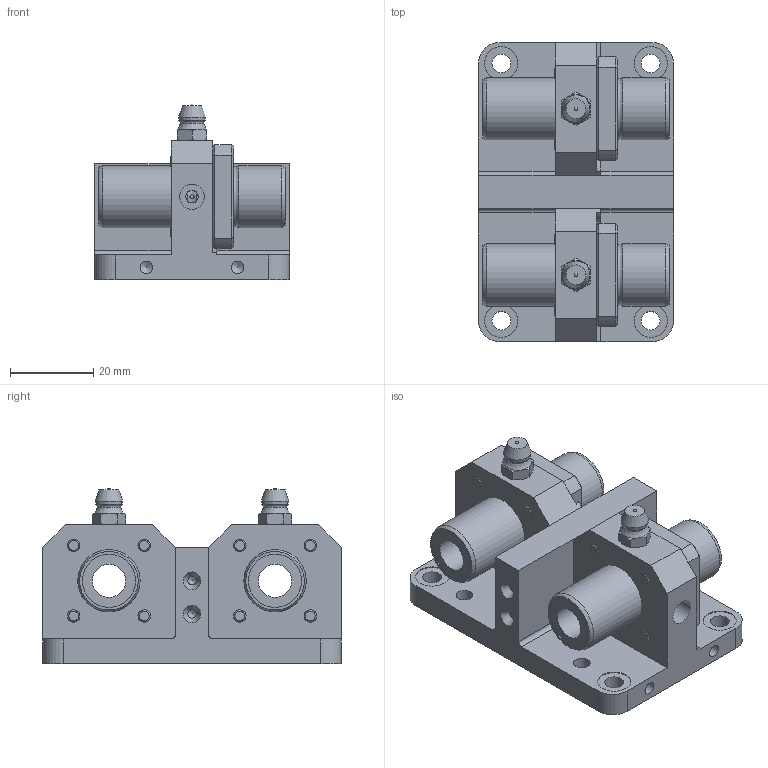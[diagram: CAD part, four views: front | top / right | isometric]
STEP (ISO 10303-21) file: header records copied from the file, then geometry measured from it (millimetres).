
FILE_DESCRIPTION((''),'2;1');
FILE_NAME('D:\製品 (図面)\カタログ用3D\リニアベアリング関連\STEP形式\LUFD\LUFD8.stp','2010-07-29T14:31:47',('Tsuchiya'),(''),'Autodesk Inventor 10','Autodesk Inventor 10','');
FILE_SCHEMA(('AUTOMOTIVE_DESIGN { 1 0 10303 214 1 1 1 1 }'));
Length unit declared in the file: millimetre
Products named in the file (4): LUFD8; LUFD81; LUFD82; LUFD83
Assembly tree (3 placements, depth 2):
  LUFD8
    LUFD81
    LUFD82
    LUFD83
Bounding box: 47 x 72 x 42.3 mm (x, y, z)
Volume: 56389.5 mm3; surface area: 27954.5 mm2
Topology: 13 solids, 13 shells, 382 faces, 858 edges, 542 vertices
Faces by surface type: plane 160, bspline 75, cylinder 71, cone 60, torus 12, sphere 4
Full cylindrical faces by diameter (mm): 3 x15, 4 x2, 4.5 x2, 5.5 x8, 6 x4, 8 x4, 12.8 x4, 15 x7
Entity records: 11614 total; most frequent: CARTESIAN_POINT 4164, DIRECTION 1430, ORIENTED_EDGE 1344, EDGE_CURVE 672, EDGE_LOOP 632, AXIS2_PLACEMENT_3D 592, VERTEX_POINT 502, FACE_OUTER_BOUND 382
